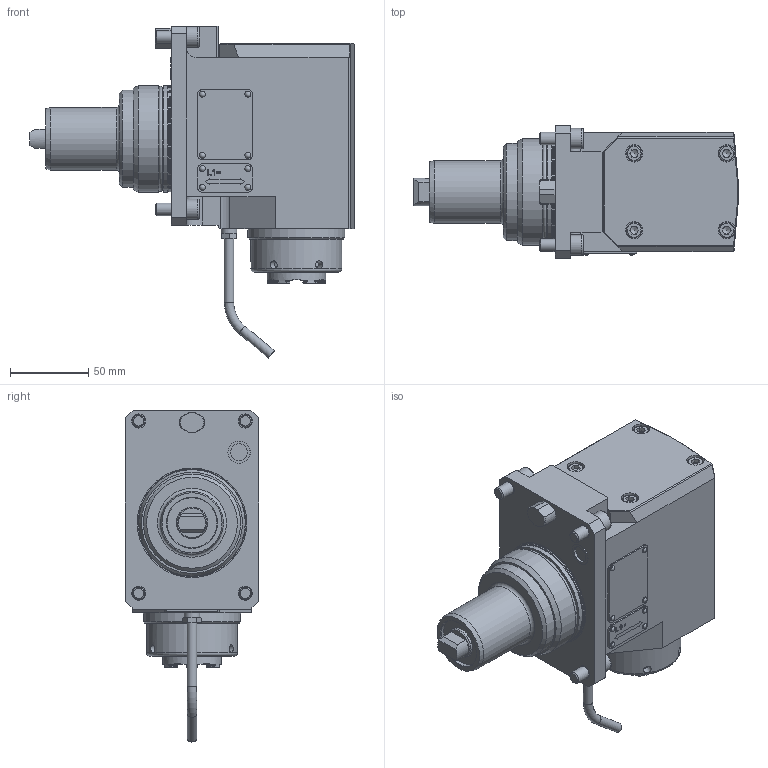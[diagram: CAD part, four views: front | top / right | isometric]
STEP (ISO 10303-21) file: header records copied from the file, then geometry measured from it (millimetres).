
FILE_DESCRIPTION(/* description */ (''),/* implementation_level */ '2;1');
FILE_NAME(/* name */ '192545',/* time_stamp */ '2020-01-17T07:39:30+01:00',/* author */ (''),/* organization */ (''),/* preprocessor_version */ 'ST-DEVELOPER v16.5',/* originating_system */ 'HiCAD 2017 2201.0 Build 268',/* authorisation */ '');
FILE_SCHEMA (('AUTOMOTIVE_DESIGN { 1 0 10303 214 1 1 1 1 }'));
Length unit declared in the file: millimetre
Products named in the file (9): Root; Teil; ABCDEFGHIJKLMNOPQRSTUVWXYZ[\]^_`ABCDEFGHIJKLMNOP㏰﯌Ł; GEWINDE; DIN 76-M8
Assembly tree (8 placements, depth 3):
  Root
    Teil
      ABCDEFGHIJKLMNOPQRSTUVWXYZ[\]^_`ABCDEFGHIJKLMNOP㏰﯌Ł
      GEWINDE
      GEWINDE
      GEWINDE
      GEWINDE
      GEWINDE
      DIN 76-M8
Bounding box: 206.75 x 85 x 211.85 mm (x, y, z)
Volume: 1245756.8 mm3; surface area: 112065.8 mm2
Topology: 13 solids, 21 shells, 653 faces, 1586 edges, 1030 vertices
Faces by surface type: plane 424, cylinder 163, torus 29, cone 27, sphere 8, bspline 2
Full cylindrical faces by diameter (mm): 2 x8, 2.2 x8, 4 x2, 5.1 x6, 6 x2, 6.466 x8, 6.8 x2, 8 x6, 8.773 x2, 9 x4, 10 x5, 10.82 x1, 11 x4, 13 x4, 14.18 x1, 14.27 x1, 20 x1, 23.5 x1, 24 x1, 27 x2, 29.4 x1, 32 x1, 37.5 x1, 38 x1, 38.16 x2, 40 x3, 40.5 x1, 58 x1, 62 x2, 63.8 x2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
Entity records: 40422 total; most frequent: CARTESIAN_POINT 9355, PRESENTATION_STYLE_ASSIGNMENT 3155, OVER_RIDING_STYLED_ITEM 3147, DIRECTION 3042, COLOUR_RGB 2788, DRAUGHTING_PRE_DEFINED_CURVE_FONT 2786, CURVE_STYLE 2786, ORIENTED_EDGE 2786
